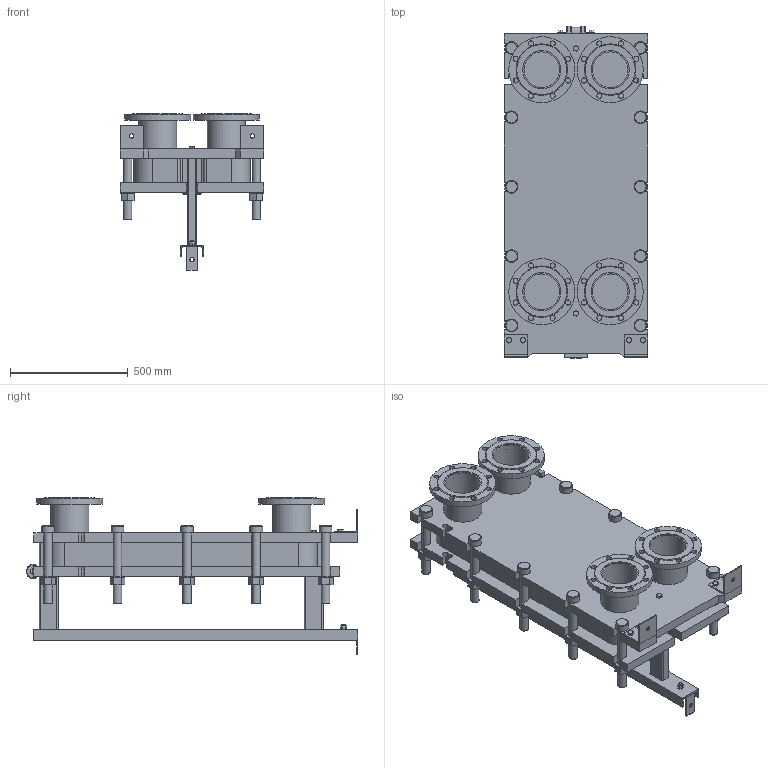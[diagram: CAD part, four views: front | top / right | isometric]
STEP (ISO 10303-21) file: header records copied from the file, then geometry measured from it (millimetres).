
FILE_DESCRIPTION(/* description */ (''),/* implementation_level */ '2;1');
FILE_NAME(/* name */ 'C:\Users\zhuro\Desktop\ENCO\TO\ЭН-041\ЭН-0,5-041-30-1.stp',/* time_stamp */ '2022-06-06T10:50:48+03:00',/* author */ ('zhuro'),/* organization */ (''),/* preprocessor_version */ 'ST-DEVELOPER v18.1',/* originating_system */ 'Autodesk Inventor 2022',/* authorisation */ '');
FILE_SCHEMA (('AUTOMOTIVE_DESIGN { 1 0 10303 214 3 1 1 }'));
Length unit declared in the file: millimetre
Products named in the file (1): ЭН-0,5-041-30-1
Bounding box: 610 x 1406.5 x 665 mm (x, y, z)
Volume: 133766331.1 mm3; surface area: 7481068.5 mm2
Topology: 52 solids, 52 shells, 711 faces, 1696 edges, 1094 vertices
Faces by surface type: plane 487, cylinder 177, cone 41, torus 6
Full cylindrical faces by diameter (mm): 8 x4, 10 x2, 16 x8, 18 x3, 22 x32, 36 x24, 50 x1, 54 x10, 60 x12, 151 x4, 161 x8, 280 x4
Entity records: 22667 total; most frequent: CARTESIAN_POINT 5230, DIRECTION 3644, ORIENTED_EDGE 3392, EDGE_CURVE 1696, AXIS2_PLACEMENT_3D 1272, LINE 1100, VECTOR 1100, VERTEX_POINT 1094
